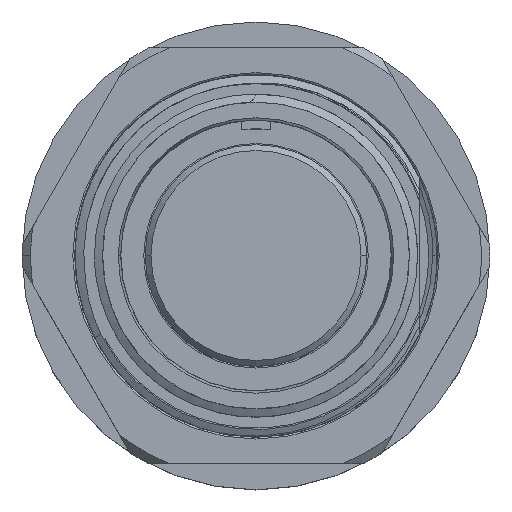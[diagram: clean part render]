
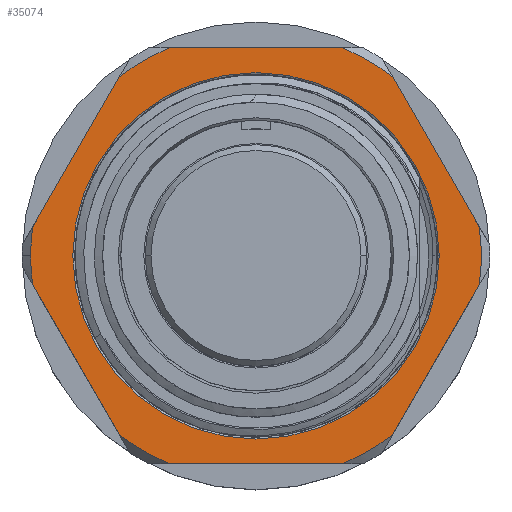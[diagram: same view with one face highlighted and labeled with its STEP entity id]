
A CAD part, top view. The second image highlights one B-rep face of the part: STEP entity #35074.
In plain terms, the highlighted planar face has unit normal (0, 0, 1).
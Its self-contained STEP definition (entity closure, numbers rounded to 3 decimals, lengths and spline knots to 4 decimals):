
#61 = EDGE_LOOP ( 'NONE', ( #97169, #37936, #50598, #58633, #72469, #94081, #76111, #17719, #24295, #75098, #80773, #12071, #18788 ) ) ;
#272 = EDGE_CURVE ( 'NONE', #16776, #37138, #44236, .T. ) ;
#3118 = DIRECTION ( 'NONE',  ( 0., 0., -1. ) ) ;
#5473 = EDGE_CURVE ( 'NONE', #85508, #24331, #105814, .T. ) ;
#5641 = CARTESIAN_POINT ( 'NONE',  ( 0., 0., -0.59 ) ) ;
#7625 = DIRECTION ( 'NONE',  ( 0., 0., 1. ) ) ;
#8343 = DIRECTION ( 'NONE',  ( -0.5, -0.866, 0. ) ) ;
#10693 = DIRECTION ( 'NONE',  ( 0.5, 0.866, 0. ) ) ;
#10814 = DIRECTION ( 'NONE',  ( -1., 0., 0. ) ) ;
#11939 = CARTESIAN_POINT ( 'NONE',  ( 0., 0., -0.59 ) ) ;
#12071 = ORIENTED_EDGE ( 'NONE', *, *, #115002, .F. ) ;
#13686 = LINE ( 'NONE', #49681, #38862 ) ;
#14178 = VECTOR ( 'NONE', #10693, 39.3701 ) ;
#14366 = CARTESIAN_POINT ( 'NONE',  ( 0., 0., -0.59 ) ) ;
#15712 = DIRECTION ( 'NONE',  ( 0., 0., 1. ) ) ;
#16776 = VERTEX_POINT ( 'NONE', #102892 ) ;
#17404 = EDGE_CURVE ( 'NONE', #107110, #66401, #88595, .T. ) ;
#17719 = ORIENTED_EDGE ( 'NONE', *, *, #69020, .T. ) ;
#18788 = ORIENTED_EDGE ( 'NONE', *, *, #60372, .T. ) ;
#19469 = AXIS2_PLACEMENT_3D ( 'NONE', #14366, #49770, #41502 ) ;
#22952 = DIRECTION ( 'NONE',  ( 0., 0., 1. ) ) ;
#23689 = DIRECTION ( 'NONE',  ( 0., 0., 1. ) ) ;
#24295 = ORIENTED_EDGE ( 'NONE', *, *, #5473, .T. ) ;
#24304 = CARTESIAN_POINT ( 'NONE',  ( -0.7711, -0.0994, -0.59 ) ) ;
#24331 = VERTEX_POINT ( 'NONE', #24304 ) ;
#25364 = CARTESIAN_POINT ( 'NONE',  ( 0.3475, 0.8331, -0.59 ) ) ;
#26074 = VERTEX_POINT ( 'NONE', #66800 ) ;
#26403 = DIRECTION ( 'NONE',  ( 1., 0., 0. ) ) ;
#26463 = VERTEX_POINT ( 'NONE', #80687 ) ;
#27673 = DIRECTION ( 'NONE',  ( 1., 0., 0. ) ) ;
#27801 = LINE ( 'NONE', #35515, #14178 ) ;
#28910 = CIRCLE ( 'NONE', #43991, 0.6325 ) ;
#29787 = VERTEX_POINT ( 'NONE', #111556 ) ;
#31579 = VERTEX_POINT ( 'NONE', #92675 ) ;
#32453 = DIRECTION ( 'NONE',  ( 1., 0., 0. ) ) ;
#33762 = CARTESIAN_POINT ( 'NONE',  ( 0.8953, 0.1156, -0.59 ) ) ;
#34850 = DIRECTION ( 'NONE',  ( 0., 0., 1. ) ) ;
#35074 = ADVANCED_FACE ( 'NONE', ( #75126, #47980 ), #73368, .F. ) ;
#35177 = DIRECTION ( 'NONE',  ( 1., 0., 0. ) ) ;
#35515 = CARTESIAN_POINT ( 'NONE',  ( -0.3475, 0.8331, -0.59 ) ) ;
#36169 = VERTEX_POINT ( 'NONE', #43263 ) ;
#37138 = VERTEX_POINT ( 'NONE', #92179 ) ;
#37238 = VERTEX_POINT ( 'NONE', #41385 ) ;
#37936 = ORIENTED_EDGE ( 'NONE', *, *, #78781, .T. ) ;
#38290 = AXIS2_PLACEMENT_3D ( 'NONE', #56221, #3118, #10814 ) ;
#38862 = VECTOR ( 'NONE', #85668, 39.3701 ) ;
#40205 = CIRCLE ( 'NONE', #19469, 0.7775 ) ;
#41347 = CARTESIAN_POINT ( 'NONE',  ( -0.7775, 0., -0.59 ) ) ;
#41385 = CARTESIAN_POINT ( 'NONE',  ( -0.2995, -0.7175, -0.59 ) ) ;
#41502 = DIRECTION ( 'NONE',  ( 1., 0., 0. ) ) ;
#43263 = CARTESIAN_POINT ( 'NONE',  ( -0.7711, 0.0994, -0.59 ) ) ;
#43991 = AXIS2_PLACEMENT_3D ( 'NONE', #11939, #23689, #83922 ) ;
#44154 = AXIS2_PLACEMENT_3D ( 'NONE', #53531, #78367, #26403 ) ;
#44236 = LINE ( 'NONE', #25364, #88802 ) ;
#44266 = DIRECTION ( 'NONE',  ( 1., 0., 0. ) ) ;
#47743 = EDGE_CURVE ( 'NONE', #53409, #37238, #59138, .T. ) ;
#47884 = CIRCLE ( 'NONE', #85510, 0.7775 ) ;
#47980 = FACE_OUTER_BOUND ( 'NONE', #61, .T. ) ;
#48940 = CARTESIAN_POINT ( 'NONE',  ( 0., 0., -0.59 ) ) ;
#49681 = CARTESIAN_POINT ( 'NONE',  ( 0., 0.7175, -0.59 ) ) ;
#49770 = DIRECTION ( 'NONE',  ( 0., 0., 1. ) ) ;
#50598 = ORIENTED_EDGE ( 'NONE', *, *, #272, .F. ) ;
#51420 = CARTESIAN_POINT ( 'NONE',  ( -0.2995, 0.7175, -0.59 ) ) ;
#52188 = CARTESIAN_POINT ( 'NONE',  ( 0., -0.7175, -0.59 ) ) ;
#53409 = VERTEX_POINT ( 'NONE', #79873 ) ;
#53531 = CARTESIAN_POINT ( 'NONE',  ( 0., 0., -0.59 ) ) ;
#53676 = CARTESIAN_POINT ( 'NONE',  ( 0., 0., -0.59 ) ) ;
#55507 = CIRCLE ( 'NONE', #93284, 0.7775 ) ;
#56221 = CARTESIAN_POINT ( 'NONE',  ( 0., 0.6325, -0.59 ) ) ;
#58523 = CARTESIAN_POINT ( 'NONE',  ( -0.8953, 0.1156, -0.59 ) ) ;
#58633 = ORIENTED_EDGE ( 'NONE', *, *, #91766, .T. ) ;
#59138 = CIRCLE ( 'NONE', #74257, 0.7775 ) ;
#60372 = EDGE_CURVE ( 'NONE', #26463, #66401, #40205, .T. ) ;
#61391 = ORIENTED_EDGE ( 'NONE', *, *, #70914, .F. ) ;
#62179 = DIRECTION ( 'NONE',  ( -1., 0., 0. ) ) ;
#62596 = EDGE_CURVE ( 'NONE', #31579, #29787, #28910, .T. ) ;
#63495 = VECTOR ( 'NONE', #62179, 39.3701 ) ;
#63667 = DIRECTION ( 'NONE',  ( 0.5, -0.866, 0. ) ) ;
#64647 = ORIENTED_EDGE ( 'NONE', *, *, #62596, .F. ) ;
#66401 = VERTEX_POINT ( 'NONE', #80674 ) ;
#66800 = CARTESIAN_POINT ( 'NONE',  ( -0.4716, 0.6181, -0.59 ) ) ;
#67154 = EDGE_CURVE ( 'NONE', #69385, #26074, #47884, .T. ) ;
#69020 = EDGE_CURVE ( 'NONE', #36169, #85508, #110033, .T. ) ;
#69385 = VERTEX_POINT ( 'NONE', #51420 ) ;
#69935 = DIRECTION ( 'NONE',  ( 0., 0., 1. ) ) ;
#70914 = EDGE_CURVE ( 'NONE', #29787, #31579, #102613, .T. ) ;
#72469 = ORIENTED_EDGE ( 'NONE', *, *, #96088, .F. ) ;
#73368 = PLANE ( 'NONE',  #38290 ) ;
#74257 = AXIS2_PLACEMENT_3D ( 'NONE', #96762, #7625, #32453 ) ;
#74293 = DIRECTION ( 'NONE',  ( 0., 0., 1. ) ) ;
#74854 = CARTESIAN_POINT ( 'NONE',  ( 0.7711, -0.0994, -0.59 ) ) ;
#75098 = ORIENTED_EDGE ( 'NONE', *, *, #90356, .F. ) ;
#75126 = FACE_BOUND ( 'NONE', #75799, .T. ) ;
#75673 = LINE ( 'NONE', #58523, #100912 ) ;
#75799 = EDGE_LOOP ( 'NONE', ( #61391, #64647 ) ) ;
#76111 = ORIENTED_EDGE ( 'NONE', *, *, #88091, .F. ) ;
#77247 = DIRECTION ( 'NONE',  ( 1., 0., 0. ) ) ;
#78346 = CIRCLE ( 'NONE', #115982, 0.7775 ) ;
#78367 = DIRECTION ( 'NONE',  ( 0., 0., 1. ) ) ;
#78781 = EDGE_CURVE ( 'NONE', #107110, #37138, #55507, .T. ) ;
#79363 = CARTESIAN_POINT ( 'NONE',  ( 0.2995, 0.7175, -0.59 ) ) ;
#79873 = CARTESIAN_POINT ( 'NONE',  ( -0.4716, -0.6181, -0.59 ) ) ;
#80674 = CARTESIAN_POINT ( 'NONE',  ( 0.4716, -0.6181, -0.59 ) ) ;
#80687 = CARTESIAN_POINT ( 'NONE',  ( 0.2995, -0.7175, -0.59 ) ) ;
#80773 = ORIENTED_EDGE ( 'NONE', *, *, #47743, .T. ) ;
#81172 = VERTEX_POINT ( 'NONE', #79363 ) ;
#81453 = VECTOR ( 'NONE', #8343, 39.3701 ) ;
#81682 = DIRECTION ( 'NONE',  ( 1., 0., 0. ) ) ;
#83922 = DIRECTION ( 'NONE',  ( 1., 0., 0. ) ) ;
#85508 = VERTEX_POINT ( 'NONE', #41347 ) ;
#85510 = AXIS2_PLACEMENT_3D ( 'NONE', #48940, #22952, #77247 ) ;
#85668 = DIRECTION ( 'NONE',  ( 1., 0., 0. ) ) ;
#88091 = EDGE_CURVE ( 'NONE', #36169, #26074, #27801, .T. ) ;
#88595 = LINE ( 'NONE', #33762, #81453 ) ;
#88802 = VECTOR ( 'NONE', #63667, 39.3701 ) ;
#90356 = EDGE_CURVE ( 'NONE', #53409, #24331, #75673, .T. ) ;
#91766 = EDGE_CURVE ( 'NONE', #16776, #81172, #78346, .T. ) ;
#92179 = CARTESIAN_POINT ( 'NONE',  ( 0.7711, 0.0994, -0.59 ) ) ;
#92675 = CARTESIAN_POINT ( 'NONE',  ( -0.6325, 0., -0.59 ) ) ;
#93284 = AXIS2_PLACEMENT_3D ( 'NONE', #115986, #15712, #35177 ) ;
#94081 = ORIENTED_EDGE ( 'NONE', *, *, #67154, .T. ) ;
#94543 = DIRECTION ( 'NONE',  ( -0.5, 0.866, 0. ) ) ;
#96088 = EDGE_CURVE ( 'NONE', #69385, #81172, #13686, .T. ) ;
#96762 = CARTESIAN_POINT ( 'NONE',  ( 0., 0., -0.59 ) ) ;
#96990 = AXIS2_PLACEMENT_3D ( 'NONE', #108513, #74293, #27673 ) ;
#97169 = ORIENTED_EDGE ( 'NONE', *, *, #17404, .F. ) ;
#100912 = VECTOR ( 'NONE', #94543, 39.3701 ) ;
#102613 = CIRCLE ( 'NONE', #44154, 0.6325 ) ;
#102892 = CARTESIAN_POINT ( 'NONE',  ( 0.4716, 0.6181, -0.59 ) ) ;
#105735 = AXIS2_PLACEMENT_3D ( 'NONE', #53676, #34850, #44266 ) ;
#105814 = CIRCLE ( 'NONE', #105735, 0.7775 ) ;
#107048 = LINE ( 'NONE', #52188, #63495 ) ;
#107110 = VERTEX_POINT ( 'NONE', #74854 ) ;
#108513 = CARTESIAN_POINT ( 'NONE',  ( 0., 0., -0.59 ) ) ;
#110033 = CIRCLE ( 'NONE', #96990, 0.7775 ) ;
#111556 = CARTESIAN_POINT ( 'NONE',  ( 0.6325, 0., -0.59 ) ) ;
#115002 = EDGE_CURVE ( 'NONE', #26463, #37238, #107048, .T. ) ;
#115982 = AXIS2_PLACEMENT_3D ( 'NONE', #5641, #69935, #81682 ) ;
#115986 = CARTESIAN_POINT ( 'NONE',  ( 0., 0., -0.59 ) ) ;
